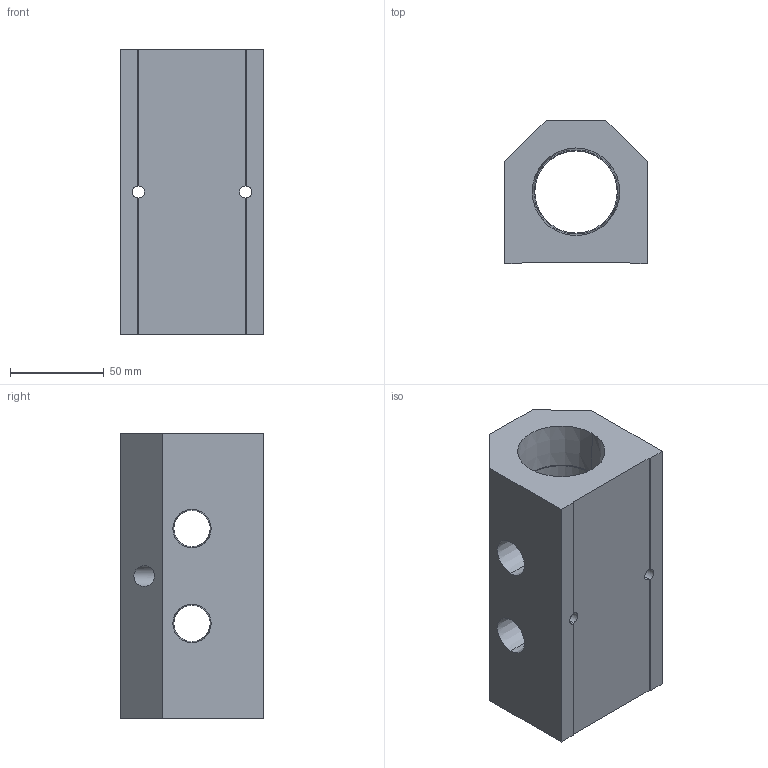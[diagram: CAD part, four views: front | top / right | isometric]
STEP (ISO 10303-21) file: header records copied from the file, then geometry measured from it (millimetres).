
FILE_DESCRIPTION (( 'STEP AP214' ), '1' );
FILE_NAME ('ALM2ACE-N8N24-152R.step', '2022-02-07T09:23:12', ( '' ), ( '' ), 'SwSTEP 2.0', 'SolidWorks 2020', '' );
FILE_SCHEMA (( 'AUTOMOTIVE_DESIGN' ));
Length unit declared in the file: millimetre
Products named in the file (1): ALM2ACE-N8N24-152R
Bounding box: 76.2 x 76.2 x 152 mm (x, y, z)
Volume: 529081.8 mm3; surface area: 76448.3 mm2
Topology: 1 solids, 1 shells, 303 faces, 807 edges, 534 vertices
Faces by surface type: plane 216, bspline 61, cone 16, cylinder 10
Entity records: 16747 total; most frequent: CARTESIAN_POINT 6608, ORIENTED_EDGE 1614, DIRECTION 1187, EDGE_CURVE 807, LINE 629, VECTOR 629, VERTEX_POINT 534, EDGE_LOOP 349
